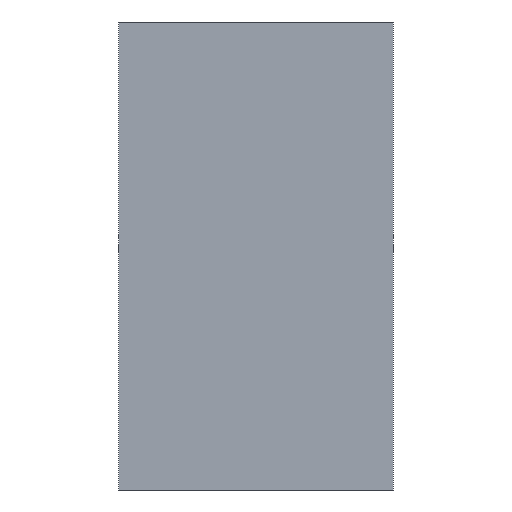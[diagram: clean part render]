
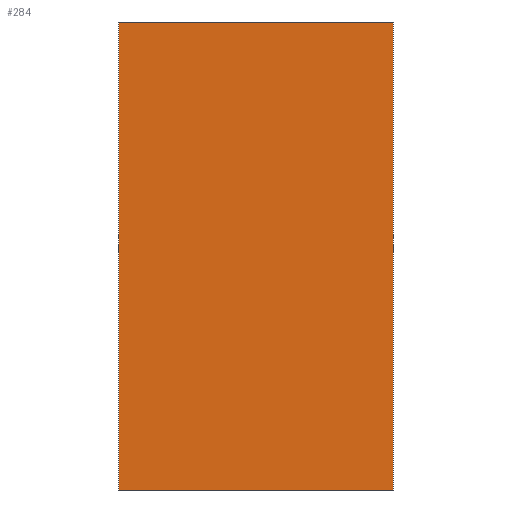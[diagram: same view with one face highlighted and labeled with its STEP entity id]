
A CAD part, front view. The second image highlights one B-rep face of the part: STEP entity #284.
In plain terms, the highlighted planar face has unit normal (0, -1, 0).
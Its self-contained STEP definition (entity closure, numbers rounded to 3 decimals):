
#21 = EDGE_CURVE('',#22,#24,#26,.T.);
#22 = VERTEX_POINT('',#23);
#23 = CARTESIAN_POINT('',(-27.,0.,-140.));
#24 = VERTEX_POINT('',#25);
#25 = CARTESIAN_POINT('',(27.,0.,-140.));
#26 = SURFACE_CURVE('',#27,(#31,#43),.PCURVE_S1.);
#27 = LINE('',#28,#29);
#28 = CARTESIAN_POINT('',(-27.,0.,-140.));
#29 = VECTOR('',#30,1.);
#30 = DIRECTION('',(1.,0.,0.));
#31 = PCURVE('',#32,#37);
#32 = PLANE('',#33);
#33 = AXIS2_PLACEMENT_3D('',#34,#35,#36);
#34 = CARTESIAN_POINT('',(-27.,0.,-140.));
#35 = DIRECTION('',(0.,0.,1.));
#36 = DIRECTION('',(0.,1.,0.));
#37 = DEFINITIONAL_REPRESENTATION('',(#38),#42);
#38 = LINE('',#39,#40);
#39 = CARTESIAN_POINT('',(0.,0.));
#40 = VECTOR('',#41,1.);
#41 = DIRECTION('',(0.,-1.));
#42 = ( GEOMETRIC_REPRESENTATION_CONTEXT(2) 
PARAMETRIC_REPRESENTATION_CONTEXT() REPRESENTATION_CONTEXT('2D SPACE',''
  ) );
#43 = PCURVE('',#44,#49);
#44 = PLANE('',#45);
#45 = AXIS2_PLACEMENT_3D('',#46,#47,#48);
#46 = CARTESIAN_POINT('',(-27.,0.,-48.));
#47 = DIRECTION('',(-0.,1.,0.));
#48 = DIRECTION('',(0.,0.,-1.));
#49 = DEFINITIONAL_REPRESENTATION('',(#50),#54);
#50 = LINE('',#51,#52);
#51 = CARTESIAN_POINT('',(92.,0.));
#52 = VECTOR('',#53,1.);
#53 = DIRECTION('',(0.,-1.));
#54 = ( GEOMETRIC_REPRESENTATION_CONTEXT(2) 
PARAMETRIC_REPRESENTATION_CONTEXT() REPRESENTATION_CONTEXT('2D SPACE',''
  ) );
#72 = PLANE('',#73);
#73 = AXIS2_PLACEMENT_3D('',#74,#75,#76);
#74 = CARTESIAN_POINT('',(27.,0.5,-94.));
#75 = DIRECTION('',(1.,0.,0.));
#76 = DIRECTION('',(-0.,0.,1.));
#126 = PLANE('',#127);
#127 = AXIS2_PLACEMENT_3D('',#128,#129,#130);
#128 = CARTESIAN_POINT('',(-27.,0.5,-94.));
#129 = DIRECTION('',(1.,0.,0.));
#130 = DIRECTION('',(-0.,0.,1.));
#181 = PLANE('',#182);
#182 = AXIS2_PLACEMENT_3D('',#183,#184,#185);
#183 = CARTESIAN_POINT('',(-27.,1.,-48.));
#184 = DIRECTION('',(0.,0.,-1.));
#185 = DIRECTION('',(0.,-1.,0.));
#219 = VERTEX_POINT('',#220);
#220 = CARTESIAN_POINT('',(27.,0.,-48.));
#241 = EDGE_CURVE('',#242,#219,#244,.T.);
#242 = VERTEX_POINT('',#243);
#243 = CARTESIAN_POINT('',(-27.,0.,-48.));
#244 = SURFACE_CURVE('',#245,(#249,#256),.PCURVE_S1.);
#245 = LINE('',#246,#247);
#246 = CARTESIAN_POINT('',(-27.,0.,-48.));
#247 = VECTOR('',#248,1.);
#248 = DIRECTION('',(1.,0.,0.));
#249 = PCURVE('',#181,#250);
#250 = DEFINITIONAL_REPRESENTATION('',(#251),#255);
#251 = LINE('',#252,#253);
#252 = CARTESIAN_POINT('',(1.,0.));
#253 = VECTOR('',#254,1.);
#254 = DIRECTION('',(0.,-1.));
#255 = ( GEOMETRIC_REPRESENTATION_CONTEXT(2) 
PARAMETRIC_REPRESENTATION_CONTEXT() REPRESENTATION_CONTEXT('2D SPACE',''
  ) );
#256 = PCURVE('',#44,#257);
#257 = DEFINITIONAL_REPRESENTATION('',(#258),#262);
#258 = LINE('',#259,#260);
#259 = CARTESIAN_POINT('',(0.,0.));
#260 = VECTOR('',#261,1.);
#261 = DIRECTION('',(0.,-1.));
#262 = ( GEOMETRIC_REPRESENTATION_CONTEXT(2) 
PARAMETRIC_REPRESENTATION_CONTEXT() REPRESENTATION_CONTEXT('2D SPACE',''
  ) );
#284 = ADVANCED_FACE('',(#285),#44,.F.);
#285 = FACE_BOUND('',#286,.F.);
#286 = EDGE_LOOP('',(#287,#288,#309,#310));
#287 = ORIENTED_EDGE('',*,*,#241,.T.);
#288 = ORIENTED_EDGE('',*,*,#289,.T.);
#289 = EDGE_CURVE('',#219,#24,#290,.T.);
#290 = SURFACE_CURVE('',#291,(#295,#302),.PCURVE_S1.);
#291 = LINE('',#292,#293);
#292 = CARTESIAN_POINT('',(27.,0.,-48.));
#293 = VECTOR('',#294,1.);
#294 = DIRECTION('',(0.,0.,-1.));
#295 = PCURVE('',#44,#296);
#296 = DEFINITIONAL_REPRESENTATION('',(#297),#301);
#297 = LINE('',#298,#299);
#298 = CARTESIAN_POINT('',(0.,-54.));
#299 = VECTOR('',#300,1.);
#300 = DIRECTION('',(1.,0.));
#301 = ( GEOMETRIC_REPRESENTATION_CONTEXT(2) 
PARAMETRIC_REPRESENTATION_CONTEXT() REPRESENTATION_CONTEXT('2D SPACE',''
  ) );
#302 = PCURVE('',#72,#303);
#303 = DEFINITIONAL_REPRESENTATION('',(#304),#308);
#304 = LINE('',#305,#306);
#305 = CARTESIAN_POINT('',(46.,0.5));
#306 = VECTOR('',#307,1.);
#307 = DIRECTION('',(-1.,0.));
#308 = ( GEOMETRIC_REPRESENTATION_CONTEXT(2) 
PARAMETRIC_REPRESENTATION_CONTEXT() REPRESENTATION_CONTEXT('2D SPACE',''
  ) );
#309 = ORIENTED_EDGE('',*,*,#21,.F.);
#310 = ORIENTED_EDGE('',*,*,#311,.F.);
#311 = EDGE_CURVE('',#242,#22,#312,.T.);
#312 = SURFACE_CURVE('',#313,(#317,#324),.PCURVE_S1.);
#313 = LINE('',#314,#315);
#314 = CARTESIAN_POINT('',(-27.,0.,-48.));
#315 = VECTOR('',#316,1.);
#316 = DIRECTION('',(0.,0.,-1.));
#317 = PCURVE('',#44,#318);
#318 = DEFINITIONAL_REPRESENTATION('',(#319),#323);
#319 = LINE('',#320,#321);
#320 = CARTESIAN_POINT('',(0.,0.));
#321 = VECTOR('',#322,1.);
#322 = DIRECTION('',(1.,0.));
#323 = ( GEOMETRIC_REPRESENTATION_CONTEXT(2) 
PARAMETRIC_REPRESENTATION_CONTEXT() REPRESENTATION_CONTEXT('2D SPACE',''
  ) );
#324 = PCURVE('',#126,#325);
#325 = DEFINITIONAL_REPRESENTATION('',(#326),#330);
#326 = LINE('',#327,#328);
#327 = CARTESIAN_POINT('',(46.,0.5));
#328 = VECTOR('',#329,1.);
#329 = DIRECTION('',(-1.,0.));
#330 = ( GEOMETRIC_REPRESENTATION_CONTEXT(2) 
PARAMETRIC_REPRESENTATION_CONTEXT() REPRESENTATION_CONTEXT('2D SPACE',''
  ) );
